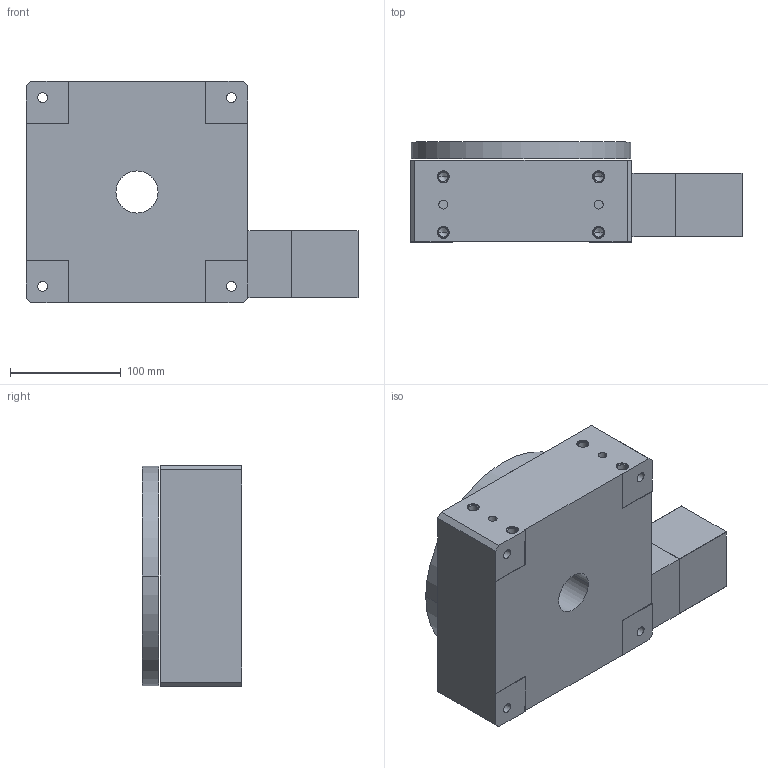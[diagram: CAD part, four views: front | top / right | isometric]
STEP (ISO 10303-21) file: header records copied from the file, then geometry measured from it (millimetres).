
FILE_DESCRIPTION((''),'2;1');
FILE_NAME('R200M7M34E0_ASM','2009-07-02T',('FK20128'),(''),'PRO/ENGINEER BY PARAMETRIC TECHNOLOGY CORPORATION, 2006200','PRO/ENGINEER BY PARAMETRIC TECHNOLOGY CORPORATION, 2006200','');
FILE_SCHEMA(('CONFIG_CONTROL_DESIGN'));
Length unit declared in the file: millimetre
Products named in the file (3): R200M; R200M-M34; R200M7M34E0_ASM
Assembly tree (2 placements, depth 2):
  R200M7M34E0_ASM
    R200M
    R200M-M34
Bounding box: 299.12 x 90 x 200 mm (x, y, z)
Volume: 3466923.9 mm3; surface area: 272502.3 mm2
Topology: 3 solids, 19 shells, 243 faces, 600 edges, 386 vertices
Faces by surface type: cylinder 128, plane 73, cone 42
Entity records: 7243 total; most frequent: DIRECTION 1382, CARTESIAN_POINT 1204, ORIENTED_EDGE 1072, EDGE_CURVE 568, AXIS2_PLACEMENT_3D 564, VERTEX_POINT 386, EDGE_LOOP 328, CIRCLE 314
